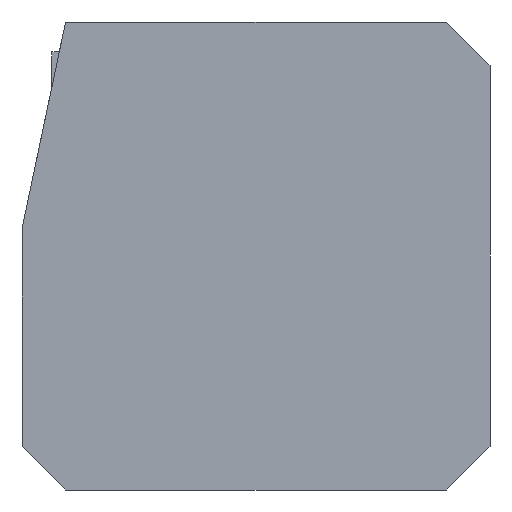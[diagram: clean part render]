
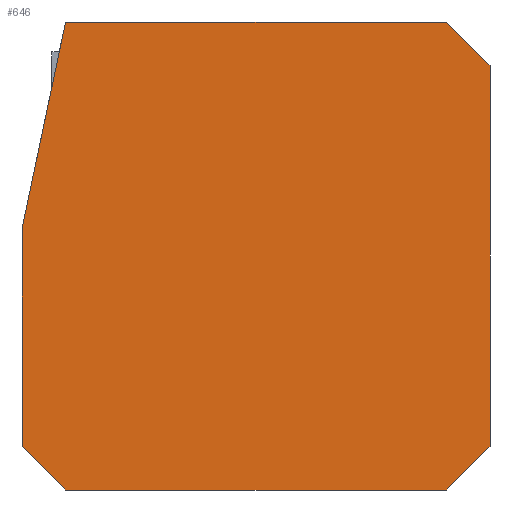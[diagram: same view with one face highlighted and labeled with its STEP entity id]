
A CAD part, front view. The second image highlights one B-rep face of the part: STEP entity #646.
In plain terms, the highlighted planar face has unit normal (0, -1, 0).
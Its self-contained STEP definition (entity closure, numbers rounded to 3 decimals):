
#80=LINE('',#1038,#148);
#83=LINE('',#1043,#151);
#85=LINE('',#1047,#153);
#87=LINE('',#1051,#155);
#89=LINE('',#1055,#157);
#91=LINE('',#1059,#159);
#93=LINE('',#1063,#161);
#95=LINE('',#1066,#163);
#148=VECTOR('',#840,10.);
#151=VECTOR('',#845,10.);
#153=VECTOR('',#849,10.);
#155=VECTOR('',#853,10.);
#157=VECTOR('',#857,10.);
#159=VECTOR('',#861,10.);
#161=VECTOR('',#865,10.);
#163=VECTOR('',#869,10.);
#190=PLANE('',#707);
#227=FACE_OUTER_BOUND('',#269,.T.);
#269=EDGE_LOOP('',(#588,#589,#590,#591,#592,#593,#594,#595));
#344=VERTEX_POINT('',#1036);
#345=VERTEX_POINT('',#1037);
#346=VERTEX_POINT('',#1042);
#347=VERTEX_POINT('',#1046);
#348=VERTEX_POINT('',#1050);
#349=VERTEX_POINT('',#1054);
#350=VERTEX_POINT('',#1058);
#351=VERTEX_POINT('',#1062);
#420=EDGE_CURVE('',#344,#345,#80,.T.);
#423=EDGE_CURVE('',#346,#344,#83,.T.);
#425=EDGE_CURVE('',#347,#346,#85,.T.);
#427=EDGE_CURVE('',#348,#347,#87,.T.);
#429=EDGE_CURVE('',#349,#348,#89,.T.);
#431=EDGE_CURVE('',#350,#349,#91,.T.);
#433=EDGE_CURVE('',#351,#350,#93,.T.);
#435=EDGE_CURVE('',#345,#351,#95,.T.);
#588=ORIENTED_EDGE('',*,*,#435,.F.);
#589=ORIENTED_EDGE('',*,*,#420,.F.);
#590=ORIENTED_EDGE('',*,*,#423,.F.);
#591=ORIENTED_EDGE('',*,*,#425,.F.);
#592=ORIENTED_EDGE('',*,*,#427,.F.);
#593=ORIENTED_EDGE('',*,*,#429,.F.);
#594=ORIENTED_EDGE('',*,*,#431,.F.);
#595=ORIENTED_EDGE('',*,*,#433,.F.);
#646=ADVANCED_FACE('',(#227),#190,.F.);
#707=AXIS2_PLACEMENT_3D('',#1067,#870,#871);
#840=DIRECTION('',(1.,0.,0.));
#845=DIRECTION('',(0.206,0.,0.979));
#849=DIRECTION('',(0.,0.,1.));
#853=DIRECTION('',(-0.707,0.,0.707));
#857=DIRECTION('',(-1.,0.,0.));
#861=DIRECTION('',(-0.707,0.,-0.707));
#865=DIRECTION('',(0.,0.,-1.));
#869=DIRECTION('',(0.707,0.,-0.707));
#870=DIRECTION('center_axis',(0.,1.,0.));
#871=DIRECTION('ref_axis',(0.,0.,1.));
#1036=CARTESIAN_POINT('',(-262.5,0.,322.5));
#1037=CARTESIAN_POINT('',(262.5,0.,322.5));
#1038=CARTESIAN_POINT('',(-262.5,0.,322.5));
#1042=CARTESIAN_POINT('',(-322.5,0.,37.5));
#1043=CARTESIAN_POINT('',(-322.5,0.,37.5));
#1046=CARTESIAN_POINT('',(-322.5,0.,-262.5));
#1047=CARTESIAN_POINT('',(-322.5,0.,-262.5));
#1050=CARTESIAN_POINT('',(-262.5,0.,-322.5));
#1051=CARTESIAN_POINT('',(-262.5,0.,-322.5));
#1054=CARTESIAN_POINT('',(262.5,0.,-322.5));
#1055=CARTESIAN_POINT('',(262.5,0.,-322.5));
#1058=CARTESIAN_POINT('',(322.5,0.,-262.5));
#1059=CARTESIAN_POINT('',(322.5,0.,-262.5));
#1062=CARTESIAN_POINT('',(322.5,0.,262.5));
#1063=CARTESIAN_POINT('',(322.5,0.,262.5));
#1066=CARTESIAN_POINT('',(262.5,0.,322.5));
#1067=CARTESIAN_POINT('Origin',(5.036,0.,-2.538));
